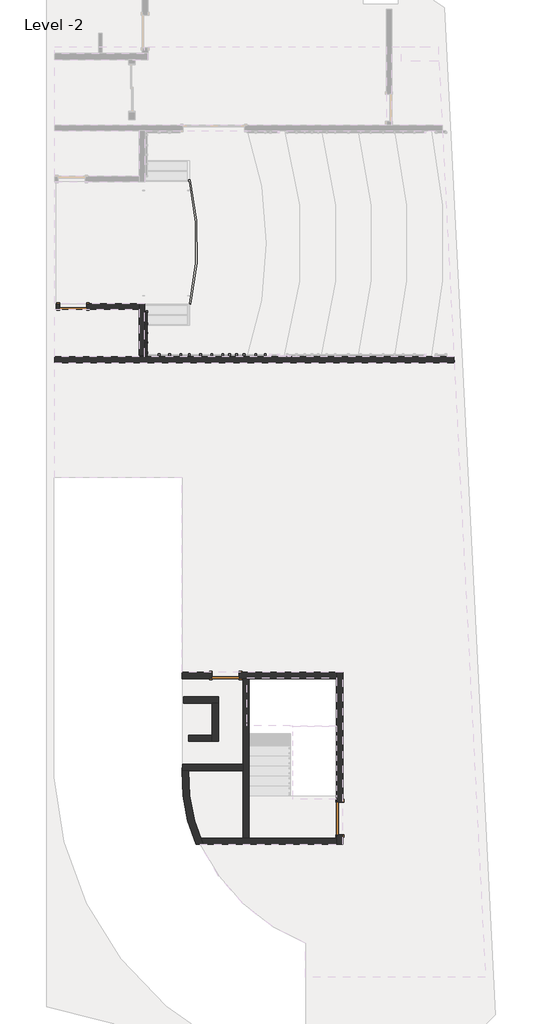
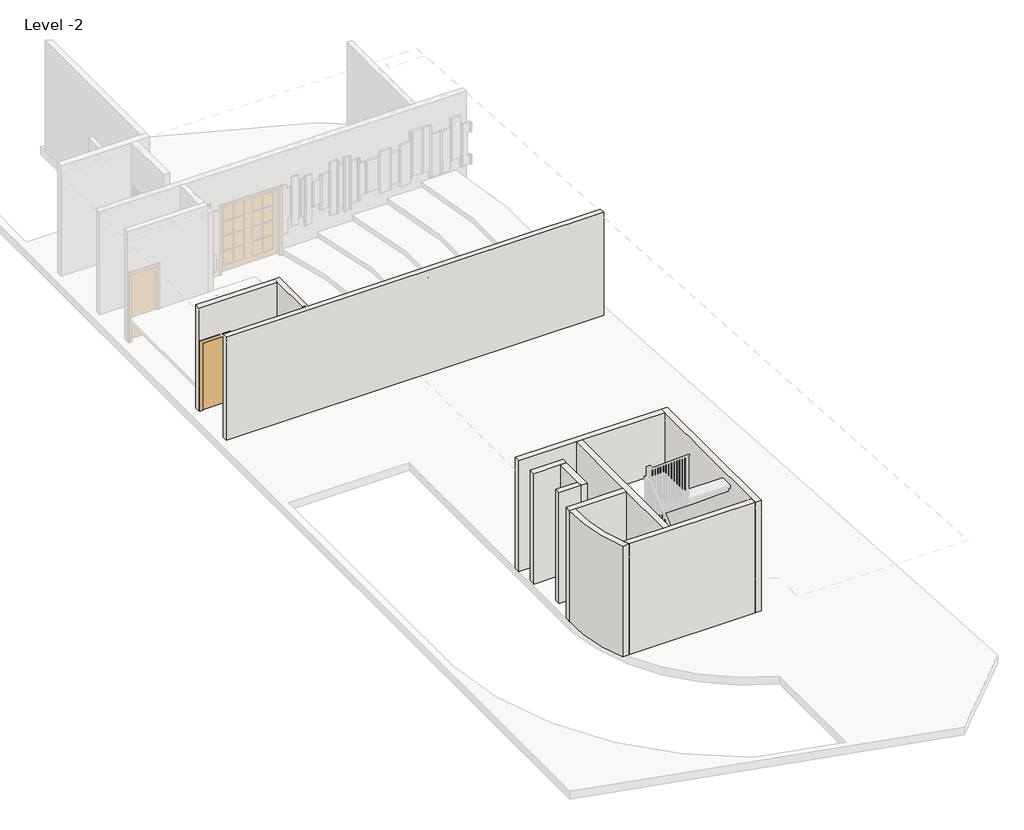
# One storey, part 1 of 6: 17 proxies, 14 walls, 3 doors.
"""IFC4 building model written with IfcOpenShell, lengths in millimetres."""

from ifc_helpers import new_model, si_unit, point, frame, frame_2d, origin, place, context, project, spatial, polyline, circle_curve, trimmed, segment, composite_curve, outline, extrude, faceted_brep, transform, mapped, element, save
from ifc_brep_helpers import plane_surface, cylinder_surface, revolved_surface, advanced_brep
from components import m_single_flush_0762_x_2134mm_e7173df3, m_single_flush_0762_x_2134mm_89ae47f1, m_single_flush_0915_x_2032mm_88b5ae01

model = new_model("IFC4")

# Units and contexts
model_context = context("Model", 3, world=origin())
ifc_project = project(units=[si_unit("LENGTHUNIT", "METRE", prefix="MILLI")], contexts=[model_context])

# Site, building, storey
site = spatial("IfcSite", under=ifc_project)
building = spatial("IfcBuilding", under=site)
storey = spatial("IfcBuildingStorey", under=building, Name="Level -2", Elevation=-7000.0)

# Proxies
placement = place(None, origin())
element("IfcBuildingElementProxy", 1, Name="Reveal", ObjectType="Reveal", at=placement, inside=storey, context=model_context, shape_type="SweptSolid", body=[
    extrude(outline(polyline([(3177.0430077, 180.1293333), (3177.0430077, 230.1293333), (3227.0430077, 230.1293333), (3227.0430077, 180.1293333), (3177.0430077, 180.1293333)])), frame((0.0, 0.0, -6462.0582782), z_axis=(0.0, 0.0, 1.0), x_axis=(1.0, 0.0, 0.0)), (0.0, 0.0, 1.0), 2142.6614901),
])
element("IfcBuildingElementProxy", 2, Name="Reveal", ObjectType="Reveal", at=placement, inside=storey, context=model_context, shape_type="SweptSolid", body=[
    extrude(outline(polyline([(3492.3539947, 180.1293333), (3492.3539947, 230.1293333), (3542.3539947, 230.1293333), (3542.3539947, 180.1293333), (3492.3539947, 180.1293333)])), frame((0.0, 0.0, -6462.0582782), z_axis=(0.0, 0.0, 1.0), x_axis=(1.0, 0.0, 0.0)), (0.0, 0.0, 1.0), 2142.6614901),
])
element("IfcBuildingElementProxy", 3, Name="Reveal", ObjectType="Reveal", at=placement, inside=storey, context=model_context, shape_type="SweptSolid", body=[
    extrude(outline(polyline([(3732.3539947, 180.1293333), (3732.3539947, 230.1293333), (3782.3539947, 230.1293333), (3782.3539947, 180.1293333), (3732.3539947, 180.1293333)])), frame((0.0, 0.0, -6462.0582782), z_axis=(0.0, 0.0, 1.0), x_axis=(1.0, 0.0, 0.0)), (0.0, 0.0, 1.0), 2142.6614901),
])
element("IfcBuildingElementProxy", 4, Name="Reveal", ObjectType="Reveal", at=placement, inside=storey, context=model_context, shape_type="SweptSolid", body=[
    extrude(outline(polyline([(2877.0430077, 180.1293333), (2877.0430077, 230.1293333), (2927.0430077, 230.1293333), (2927.0430077, 180.1293333), (2877.0430077, 180.1293333)])), frame((0.0, 0.0, -6162.0582782), z_axis=(0.0, 0.0, 1.0), x_axis=(1.0, 0.0, 0.0)), (0.0, 0.0, 1.0), 1542.6614901),
])
element("IfcBuildingElementProxy", 5, Name="Reveal", ObjectType="Reveal", at=placement, inside=storey, context=model_context, shape_type="SweptSolid", body=[
    extrude(outline(polyline([(4052.3539947, 180.1293333), (4052.3539947, 230.1293333), (4102.3539947, 230.1293333), (4102.3539947, 180.1293333), (4052.3539947, 180.1293333)])), frame((0.0, 0.0, -6162.0582782), z_axis=(0.0, 0.0, 1.0), x_axis=(1.0, 0.0, 0.0)), (0.0, 0.0, 1.0), 1542.6614901),
])
element("IfcBuildingElementProxy", 6, Name="Reveal", ObjectType="Reveal", at=placement, inside=storey, context=model_context, shape_type="SweptSolid", body=[
    extrude(outline(polyline([(4372.3539947, 180.1293333), (4372.3539947, 230.1293333), (4422.3539947, 230.1293333), (4422.3539947, 180.1293333), (4372.3539947, 180.1293333)])), frame((0.0, 0.0, -5862.0582782), z_axis=(0.0, 0.0, 1.0), x_axis=(1.0, 0.0, 0.0)), (0.0, 0.0, 1.0), 942.6614901),
])
element("IfcBuildingElementProxy", 7, Name="Reveal", ObjectType="Reveal", at=placement, inside=storey, context=model_context, shape_type="SweptSolid", body=[
    extrude(outline(polyline([(4677.0430077, 180.1293333), (4677.0430077, 230.1293333), (4727.0430077, 230.1293333), (4727.0430077, 180.1293333), (4677.0430077, 180.1293333)])), frame((0.0, 0.0, -6162.0582782), z_axis=(0.0, 0.0, 1.0), x_axis=(1.0, 0.0, 0.0)), (0.0, 0.0, 1.0), 1542.6614901),
])
element("IfcBuildingElementProxy", 8, Name="Reveal", ObjectType="Reveal", at=placement, inside=storey, context=model_context, shape_type="SweptSolid", body=[
    extrude(outline(polyline([(4866.8852546, 180.1293333), (4866.8852546, 230.1293333), (4916.8852546, 230.1293333), (4916.8852546, 180.1293333), (4866.8852546, 180.1293333)])), frame((0.0, 0.0, -6162.0582782), z_axis=(0.0, 0.0, 1.0), x_axis=(1.0, 0.0, 0.0)), (0.0, 0.0, 1.0), 1542.6614901),
])
element("IfcBuildingElementProxy", 9, Name="Reveal", ObjectType="Reveal", at=placement, inside=storey, context=model_context, shape_type="SweptSolid", body=[
    extrude(outline(polyline([(5277.0430077, 180.1293333), (5277.0430077, 230.1293333), (5327.0430077, 230.1293333), (5327.0430077, 180.1293333), (5277.0430077, 180.1293333)])), frame((0.0, 0.0, -6162.0582782), z_axis=(0.0, 0.0, 1.0), x_axis=(1.0, 0.0, 0.0)), (0.0, 0.0, 1.0), 1542.6614901),
])
element("IfcBuildingElementProxy", 10, Name="Reveal", ObjectType="Reveal", at=placement, inside=storey, context=model_context, shape_type="SweptSolid", body=[
    extrude(outline(polyline([(5612.3539947, 180.1293333), (5612.3539947, 230.1293333), (5662.3539947, 230.1293333), (5662.3539947, 180.1293333), (5612.3539947, 180.1293333)])), frame((0.0, 0.0, -5862.0582782), z_axis=(0.0, 0.0, 1.0), x_axis=(1.0, 0.0, 0.0)), (0.0, 0.0, 1.0), 942.6614901),
])
element("IfcBuildingElementProxy", 11, Name="Reveal", ObjectType="Reveal", at=placement, inside=storey, context=model_context, shape_type="SweptSolid", body=[
    extrude(outline(polyline([(5877.0430077, 180.1293333), (5877.0430077, 230.1293333), (5927.0430077, 230.1293333), (5927.0430077, 180.1293333), (5877.0430077, 180.1293333)])), frame((0.0, 0.0, -5862.0582782), z_axis=(0.0, 0.0, 1.0), x_axis=(1.0, 0.0, 0.0)), (0.0, 0.0, 1.0), 942.6614901),
])
element("IfcBuildingElementProxy", 12, Name="Reveal", ObjectType="Reveal", at=placement, inside=storey, context=model_context, shape_type="SweptSolid", body=[
    extrude(outline(polyline([(5066.8852546, 180.1293333), (5066.8852546, 230.1293333), (5116.8852546, 230.1293333), (5116.8852546, 180.1293333), (5066.8852546, 180.1293333)])), frame((0.0, 0.0, -6162.0582782), z_axis=(0.0, 0.0, 1.0), x_axis=(1.0, 0.0, 0.0)), (0.0, 0.0, 1.0), 1542.6614901),
])
element("IfcBuildingElementProxy", 13, Name="Reveal", ObjectType="Reveal", at=placement, inside=storey, context=model_context, shape_type="SweptSolid", body=[
    extrude(outline(polyline([(2537.3539947, 1445.1293333), (2587.3539947, 1445.1293333), (2587.3539947, 1395.1293333), (2537.3539947, 1395.1293333), (2537.3539947, 1445.1293333)])), frame((0.0, 0.0, -6241.0), z_axis=(0.0, 0.0, 1.0), x_axis=(1.0, 0.0, 0.0)), (0.0, 0.0, 1.0), 1741.0),
])
element("IfcBuildingElementProxy", 14, Name="Reveal", ObjectType="Reveal", at=placement, inside=storey, context=model_context, shape_type="SweptSolid", body=[
    extrude(outline(polyline([(2537.3539947, 1105.1293333), (2587.3539947, 1105.1293333), (2587.3539947, 1055.1293333), (2537.3539947, 1055.1293333), (2537.3539947, 1105.1293333)])), frame((0.0, 0.0, -5941.0), z_axis=(0.0, 0.0, 1.0), x_axis=(1.0, 0.0, 0.0)), (0.0, 0.0, 1.0), 1141.0),
])
element("IfcBuildingElementProxy", 15, Name="Reveal", ObjectType="Reveal", at=placement, inside=storey, context=model_context, shape_type="SweptSolid", body=[
    extrude(outline(polyline([(2537.3539947, 845.1293333), (2587.3539947, 845.1293333), (2587.3539947, 795.1293333), (2537.3539947, 795.1293333), (2537.3539947, 845.1293333)])), frame((0.0, 0.0, -6341.0), z_axis=(0.0, 0.0, 1.0), x_axis=(1.0, 0.0, 0.0)), (0.0, 0.0, 1.0), 1941.0),
])
element("IfcBuildingElementProxy", 16, Name="Reveal", ObjectType="Reveal", at=placement, inside=storey, context=model_context, shape_type="SweptSolid", body=[
    extrude(outline(polyline([(2537.3539947, 575.1293333), (2587.3539947, 575.1293333), (2587.3539947, 525.1293333), (2537.3539947, 525.1293333), (2537.3539947, 575.1293333)])), frame((0.0, 0.0, -6341.0), z_axis=(0.0, 0.0, 1.0), x_axis=(1.0, 0.0, 0.0)), (0.0, 0.0, 1.0), 1941.0),
])
element("IfcBuildingElementProxy", 17, Name="Reveal", ObjectType="Reveal", at=placement, inside=storey, context=model_context, shape_type="SweptSolid", body=[
    extrude(outline(polyline([(2537.3539947, 285.1293333), (2587.3539947, 285.1293333), (2587.3539947, 235.1293333), (2537.3539947, 235.1293333), (2537.3539947, 285.1293333)])), frame((0.0, 0.0, -6041.0), z_axis=(0.0, 0.0, 1.0), x_axis=(1.0, 0.0, 0.0)), (0.0, 0.0, 1.0), 1341.0),
])

# Doors
m_single_flush_0762_x_2134mm_shape = m_single_flush_0762_x_2134mm_e7173df3(model_context)
element("IfcDoor", 18, ObjectType="M_Single-Flush : 0762 x 2134mm", at=placement, inside=storey, context=model_context, shape_type="MappedRepresentation", body=[
    mapped(m_single_flush_0762_x_2134mm_shape, transform((4788.992527, -8850.5298497, -7000.0), x_axis=(1.0, 0.0, 0.0), y_axis=(0.0, 1.0, 0.0), z_axis=(0.0, 0.0, 1.0))),
])
m_single_flush_0762_x_2134mm_2_shape = m_single_flush_0762_x_2134mm_89ae47f1(model_context)
element("IfcDoor", 19, ObjectType="M_Single-Flush : 0762 x 2134mm", at=placement, inside=storey, context=model_context, shape_type="MappedRepresentation", body=[
    mapped(m_single_flush_0762_x_2134mm_2_shape, transform((474.9398516, 1562.9427762, -7000.0), x_axis=(-1.0, 0.0, 0.0), y_axis=(0.0, -1.0, 0.0), z_axis=(0.0, 0.0, 1.0))),
])
m_single_flush_0915_x_2032mm_shape = m_single_flush_0915_x_2032mm_88b5ae01(model_context)
element("IfcDoor", 20, ObjectType="M_Single-Flush : 0915 x 2032mm", at=placement, inside=storey, context=model_context, shape_type="MappedRepresentation", body=[
    mapped(m_single_flush_0915_x_2032mm_shape, transform((8009.9667664, -12880.0279318, -7000.0), x_axis=(0.0, -1.0, 0.0), y_axis=(1.0, 0.0, 0.0), z_axis=(0.0, 0.0, 1.0))),
])

# Walls
element("IfcWall", 21, ObjectType="Generic - 18cm-gypsu-2boith 2", at=placement, inside=storey, context=model_context, shape_type="Brep", body=[
    faceted_brep([(7919.9667664, -8760.5298497, -7000.0), (5169.992527, -8760.5298497, -7000.0), (5169.992527, -8760.5298497, -4866.0), (4407.992527, -8760.5298497, -4866.0), (4407.992527, -8760.5298497, -7000.0), (3549.4089841, -8760.5298497, -7000.0), (3549.4089841, -8760.5298497, -3500.0), (7919.9667664, -8760.5298497, -3500.0), (5169.992527, -8940.5298497, -4866.0), (5169.992527, -8940.5298497, -7000.0), (5269.992527, -8940.5298497, -7000.0), (5449.992527, -8940.5298497, -7000.0), (7919.9667664, -8940.5298497, -7000.0), (7919.9667664, -8940.5298497, -3500.0), (5449.992527, -8940.5298497, -3500.0), (5269.992527, -8940.5298497, -3500.0), (3549.4089841, -8940.5298497, -3500.0), (3549.4089841, -8940.5298497, -7000.0), (4407.992527, -8940.5298497, -7000.0), (4407.992527, -8940.5298497, -4866.0)], [[[0, 1, 2, 3, 4, 5, 6, 7]], [[8, 9, 10, 11, 12, 13, 14, 15, 16, 17, 18, 19]], [[18, 17, 5, 4]], [[12, 11, 10, 9, 1, 0]], [[6, 5, 17, 16]], [[7, 6, 16, 15, 14, 13]], [[2, 1, 9, 8]], [[3, 2, 8, 19]], [[4, 3, 19, 18]], [[0, 7, 13, 12]]]),
])
element("IfcWall", 22, ObjectType="Generic - 18cm-gypsu-2boith 2", at=placement, inside=storey, context=model_context, shape_type="Brep", body=[
    faceted_brep([(7919.9667664, -13337.5279318, -4968.0), (7919.9667664, -13337.5279318, -7000.0), (7919.9667664, -13437.5279318, -7000.0), (7919.9667664, -13617.5279318, -7000.0), (7919.9667664, -13617.5279318, -3500.0), (7919.9667664, -13437.5279318, -3500.0), (7919.9667664, -8940.5298497, -3500.0), (7919.9667664, -8760.5298497, -3500.0), (7919.9667664, -8760.5298497, -7000.0), (7919.9667664, -8940.5298497, -7000.0), (7919.9667664, -12422.5279318, -7000.0), (7919.9667664, -12422.5279318, -4968.0), (8099.9667664, -13617.5279318, -7000.0), (8099.9667664, -13337.5279318, -7000.0), (8099.9667664, -13337.5279318, -4968.0), (8099.9667664, -12422.5279318, -4968.0), (8099.9667664, -12422.5279318, -7000.0), (8099.9667664, -8760.5298497, -7000.0), (8099.9667664, -8760.5298497, -3500.0), (8099.9667664, -13617.5279318, -3500.0)], [[[0, 1, 2, 3, 4, 5, 6, 7, 8, 9, 10, 11]], [[12, 13, 14, 15, 16, 17, 18, 19]], [[3, 2, 1, 13, 12]], [[10, 9, 8, 17, 16]], [[7, 6, 5, 4, 19, 18]], [[4, 3, 12, 19]], [[14, 13, 1, 0]], [[15, 14, 0, 11]], [[16, 15, 11, 10]], [[8, 7, 18, 17]]]),
])
element("IfcWall", 23, ObjectType="Generic - 18cm-gypsu-2boith 2", at=placement, inside=storey, context=model_context, shape_type="Brep", body=[
    faceted_brep([(5449.992527, -13437.5279318, -7000.0), (5449.992527, -8940.5298497, -7000.0), (5449.992527, -8940.5298497, -3500.0), (5449.992527, -13437.5279318, -3500.0), (5269.992527, -13437.5279318, -7000.0), (5269.992527, -13437.5279318, -3500.0), (5269.992527, -11535.2406086, -3500.0), (5269.992527, -11355.2406086, -3500.0), (5269.992527, -8940.5298497, -3500.0), (5269.992527, -8940.5298497, -7000.0), (5269.992527, -11355.2406086, -7000.0), (5269.992527, -11535.2406086, -7000.0)], [[[0, 1, 2, 3]], [[4, 5, 6, 7, 8, 9, 10, 11]], [[1, 0, 4, 11, 10, 9]], [[3, 2, 8, 7, 6, 5]], [[2, 1, 9, 8]], [[0, 3, 5, 4]]]),
])
element("IfcWall", 24, ObjectType="Generic - 18cm-gypsu-2boith 2", at=placement, inside=storey, context=model_context, shape_type="AdvancedBrep", body=[
    advanced_brep(
    [(7919.9667664, -13437.5279318, -7000.0), (5449.992527, -13437.5279318, -7000.0), (5269.992527, -13437.5279318, -7000.0), (4073.9239779, -13437.5279318, -7000.0), (4073.9239779, -13437.5279318, -3500.0), (5269.992527, -13437.5279318, -3500.0), (5449.992527, -13437.5279318, -3500.0), (7919.9667664, -13437.5279318, -3500.0), (7919.9667664, -13617.5279318, -7000.0), (7919.9667664, -13617.5279318, -3500.0), (4153.3159797, -13617.5279318, -3500.0), (4153.3159797, -13617.5279318, -7000.0)],
    [
        (0, 1),
        (1, 2),
        (2, 3),
        (3, 4),
        (4, 5),
        (5, 6),
        (6, 7),
        (7, 0),
        (8, 9),
        (9, 10),
        (10, 11),
        (11, 8),
        (0, 8),
        (11, 3, circle_curve(frame((8170.7225142, -11738.0751988, -7000.0), z_axis=(0.0, 0.0, -1.0), x_axis=(-0.996421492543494, -0.08452342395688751, 0.0)), 4435.3013245)),
        (4, 10, circle_curve(frame((8170.7225142, -11738.0751988, -3500.0), z_axis=(0.0, 0.0, 1.0), x_axis=(-0.996421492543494, -0.08452342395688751, 0.0)), 4435.3013245)),
        (9, 7),
    ],
    [
        plane_surface(frame((6817.1731359, -13437.5279318, -7000.0), z_axis=(0.0, 1.0, 0.0), x_axis=(-1.0, 0.0, 0.0))),
        plane_surface(frame((6817.1731359, -13617.5279318, -7000.0), z_axis=(0.0, -1.0, 0.0), x_axis=(1.0, 0.0, 0.0))),
        plane_surface(frame((8009.9667664, -13437.5279318, -7000.0), z_axis=(0.0, 0.0, -1.0), x_axis=(0.0, -1.0, 0.0))),
        plane_surface(frame((4014.2563476, -13437.5279318, -3500.0), z_axis=(0.0, 0.0, 1.0), x_axis=(0.0, -1.0, 0.0))),
        plane_surface(frame((7919.9667664, -9630.5561637, -7000.0), z_axis=(1.0, 0.0, 0.0), x_axis=(0.0, -1.0, 0.0))),
        cylinder_surface(frame((8170.7225142, -11738.0751988, -7000.0), z_axis=(0.0, 0.0, -1.0), x_axis=(-0.996421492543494, -0.08452342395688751, 0.0)), 4435.3013245),
    ],
    [
        (0, [[1, 2, 3, 4, 5, 6, 7, 8]]),
        (1, [[9, 10, 11, 12]]),
        (2, [[-3, -2, -1, 13, -12, 14]]),
        (3, [[-7, -6, -5, 15, -10, 16]]),
        (4, [[-8, -16, -9, -13]]),
        (5, [[-4, -14, -11, -15]]),
    ],
),
])
element("IfcWall", 25, ObjectType="Generic - 18cm-gypsu-2boith 2", at=placement, inside=storey, context=model_context, shape_type="AdvancedBrep", body=[
    advanced_brep(
    [(5269.992527, -11355.2406086, -7000.0), (3571.3264677, -11355.2406086, -7000.0), (3571.3264677, -11355.2406086, -3500.0), (5269.992527, -11355.2406086, -3500.0), (5269.992527, -11535.2406086, -7000.0), (5269.992527, -11535.2406086, -3500.0), (3740.061619, -11535.2406086, -3500.0), (3559.8804604, -11535.2406086, -3500.0), (3559.8804604, -11535.2406086, -7000.0), (3740.061619, -11535.2406086, -7000.0)],
    [
        (0, 1),
        (1, 2),
        (2, 3),
        (3, 0),
        (4, 5),
        (5, 6),
        (6, 7),
        (7, 8),
        (8, 9),
        (9, 4),
        (0, 4),
        (8, 1, circle_curve(frame((8170.7225142, -11738.0751988, -7000.0), z_axis=(0.0, 0.0, -1.0), x_axis=(-0.996421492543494, -0.08452342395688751, 0.0)), 4615.3013245)),
        (2, 7, circle_curve(frame((8170.7225142, -11738.0751988, -3500.0), z_axis=(0.0, 0.0, 1.0), x_axis=(-0.996421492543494, -0.08452342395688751, 0.0)), 4615.3013245)),
        (5, 3),
    ],
    [
        plane_surface(frame((4899.9914965, -11355.2406086, -7000.0), z_axis=(0.0, 1.0, 0.0), x_axis=(-1.0, 0.0, 0.0))),
        plane_surface(frame((4899.9914965, -11535.2406086, -7000.0), z_axis=(0.0, -1.0, 0.0), x_axis=(1.0, 0.0, 0.0))),
        plane_surface(frame((5359.992527, -11355.2406086, -7000.0), z_axis=(0.0, 0.0, -1.0), x_axis=(0.0, -1.0, 0.0))),
        plane_surface(frame((3654.9058682, -11355.2406086, -3500.0), z_axis=(0.0, 0.0, 1.0), x_axis=(0.0, -1.0, 0.0))),
        plane_surface(frame((5269.992527, -8797.3826572, -7000.0), z_axis=(1.0, 0.0, 0.0), x_axis=(0.0, -1.0, 0.0))),
        cylinder_surface(frame((8170.7225142, -11738.0751988, -7000.0), z_axis=(0.0, 0.0, 1.0), x_axis=(-0.996421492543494, -0.08452342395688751, 0.0)), 4615.3013245),
    ],
    [
        (0, [[1, 2, 3, 4]]),
        (1, [[5, 6, 7, 8, 9, 10]]),
        (2, [[-1, 11, -10, -9, 12]]),
        (3, [[-3, 13, -7, -6, 14]]),
        (4, [[-4, -14, -5, -11]]),
        (5, [[-2, -12, -8, -13]]),
    ],
),
])
element("IfcWall", 26, ObjectType="Generic - 18cm-gypsu-2boith 2", at=placement, inside=storey, context=model_context, shape_type="AdvancedBrep", body=[
    advanced_brep(
    [(4153.3159797, -13617.5279318, -3500.0), (4073.9213856, -13437.5216298, -3500.0), (3740.061619, -11535.2406086, -3500.0), (3559.8804604, -11535.2406086, -3500.0), (3955.4332311, -13617.5279318, -3500.0), (4153.3159797, -13617.5279318, -7000.0), (3955.4332311, -13617.5279318, -7000.0), (3559.8804604, -11535.2406086, -7000.0), (3740.061619, -11535.2406086, -7000.0), (4073.9213856, -13437.5216298, -7000.0)],
    [
        (0, 1, circle_curve(frame((8170.7225142, -11738.0751988, -3500.0), z_axis=(0.0, 0.0, -1.0), x_axis=(-0.996421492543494, -0.08452342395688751, 0.0)), 4435.3013245)),
        (1, 2, circle_curve(frame((8170.7225142, -11738.0751988, -3500.0), z_axis=(0.0, 0.0, -1.0), x_axis=(-0.996421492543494, -0.08452342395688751, 0.0)), 4435.3013042)),
        (2, 3),
        (3, 4, circle_curve(frame((8170.7225142, -11738.0751988, -3500.0), z_axis=(0.0, 0.0, 1.0), x_axis=(-0.996421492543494, -0.08452342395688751, 0.0)), 4615.3013245)),
        (4, 0),
        (5, 6),
        (6, 7, circle_curve(frame((8170.7225142, -11738.0751988, -7000.0), z_axis=(0.0, 0.0, -1.0), x_axis=(-0.996421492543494, -0.08452342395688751, 0.0)), 4615.3013245)),
        (7, 8),
        (8, 9, circle_curve(frame((8170.7225142, -11738.0751988, -7000.0), z_axis=(0.0, 0.0, 1.0), x_axis=(-0.996421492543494, -0.08452342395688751, 0.0)), 4435.3013245)),
        (9, 5, circle_curve(frame((8170.7225142, -11738.0751988, -7000.0), z_axis=(0.0, 0.0, 1.0), x_axis=(-0.996421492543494, -0.08452342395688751, 0.0)), 4435.3013042)),
        (0, 5),
        (8, 2),
        (3, 7),
        (6, 4),
    ],
    [
        plane_surface(frame((3751.2929486, -12112.962053, -3500.0), z_axis=(0.0, 0.0, 1.0), x_axis=(-0.08452342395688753, 0.996421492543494, 0.0))),
        plane_surface(frame((3751.2929486, -12112.962053, -7000.0), z_axis=(0.0, 0.0, -1.0), x_axis=(0.08452342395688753, -0.996421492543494, 0.0))),
        revolved_surface(polyline([(3751.292948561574, -12112.962053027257, -7000.0), (3751.292948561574, -12112.962053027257, -3500.0)]), (8170.7225142, -11738.0751988, -7000.0), (0.0, 0.0, -1.0)),
        cylinder_surface(frame((8170.7225142, -11738.0751988, -7000.0), z_axis=(0.0, 0.0, 1.0), x_axis=(-0.996421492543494, -0.08452342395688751, 0.0)), 4615.3013245),
        plane_surface(frame((4899.9914965, -11535.2406086, -7000.0), z_axis=(0.0, 1.0, 0.0), x_axis=(1.0, 0.0, 0.0))),
        plane_surface(frame((6817.1731359, -13617.5279318, -7000.0), z_axis=(0.0, -1.0, 0.0), x_axis=(1.0, 0.0, 0.0))),
    ],
    [
        (0, [[1, 2, 3, 4, 5]]),
        (1, [[6, 7, 8, 9, 10]]),
        (2, [[-2, -1, 11, -10, -9, 12]]),
        (3, [[-4, 13, -7, 14]]),
        (4, [[-3, -12, -8, -13]]),
        (5, [[-5, -14, -6, -11]]),
    ],
),
])
element("IfcWall", 27, ObjectType="Generic - 18cm-gypsu-2boith 2", at=placement, inside=storey, context=model_context, shape_type="Brep", body=[
    faceted_brep([(4578.6875281, -9450.0867626, -7000.0), (3601.2929486, -9450.0867626, -7000.0), (3601.2929486, -9450.0867626, -3500.0), (4578.6875281, -9450.0867626, -3500.0), (4578.6875281, -9630.0867626, -7000.0), (4578.6875281, -9630.0867626, -3500.0), (4398.6875281, -9630.0867626, -3500.0), (3601.2929486, -9630.0867626, -3500.0), (3601.2929486, -9630.0867626, -7000.0), (4398.6875281, -9630.0867626, -7000.0)], [[[0, 1, 2, 3]], [[4, 5, 6, 7, 8, 9]], [[1, 0, 4, 9, 8]], [[2, 1, 8, 7]], [[3, 2, 7, 6, 5]], [[0, 3, 5, 4]]]),
])
element("IfcWall", 28, ObjectType="Generic - 18cm-gypsu-2boith 2", at=placement, inside=storey, context=model_context, shape_type="Brep", body=[
    faceted_brep([(4398.6875281, -9630.0867626, -7000.0), (4398.6875281, -10530.0867626, -7000.0), (4398.6875281, -10710.0867626, -7000.0), (4398.6875281, -10710.0867626, -3500.0), (4398.6875281, -10530.0867626, -3500.0), (4398.6875281, -9630.0867626, -3500.0), (4578.6875281, -9630.0867626, -7000.0), (4578.6875281, -9630.0867626, -3500.0), (4578.6875281, -10710.0867626, -3500.0), (4578.6875281, -10710.0867626, -7000.0)], [[[0, 1, 2, 3, 4, 5]], [[6, 7, 8, 9]], [[2, 1, 0, 6, 9]], [[5, 4, 3, 8, 7]], [[0, 5, 7, 6]], [[3, 2, 9, 8]]]),
])
element("IfcWall", 29, ObjectType="Generic - 18cm-gypsu-2boith 2", at=placement, inside=storey, context=model_context, shape_type="SweptSolid", body=[
    extrude(outline(polyline([(3731.2929486, -10530.0867626), (4398.6875281, -10530.0867626), (4398.6875281, -10710.0867626), (3731.2929486, -10710.0867626), (3731.2929486, -10530.0867626)])), frame((0.0, 0.0, -7000.0), z_axis=(0.0, 0.0, 1.0), x_axis=(1.0, 0.0, 0.0)), (0.0, 0.0, 1.0), 3500.0),
])
element("IfcWall", 30, ObjectType="Antick", at=placement, inside=storey, context=model_context, shape_type="SweptSolid", body=[
    extrude(outline(composite_curve([segment(polyline([(3733.0022555, 5136.0546679), (3781.5880035, 5147.8625082)]), True, "CONTINUOUS"), segment(trimmed(circle_curve(frame_2d((-3560.294592, 3363.5578296)), 7555.5928445), [point((3781.5880035, 5147.8625082))], [point((3794.0844812, 1631.4805567))], False, "CARTESIAN"), True, "CONTINUOUS"), segment(polyline([(3794.0844812, 1631.4805567), (3745.4160364, 1642.9427762)]), True, "CONTINUOUS"), segment(trimmed(circle_curve(frame_2d((-3560.294592, 3363.5578296)), 7505.5928445), [point((3745.4160364, 1642.9427762))], [point((3733.0022555, 5136.0546679))], True, "CARTESIAN"), True, "CONTINUOUS")], self_intersect=False)), frame((0.0, 0.0, -7000.0), z_axis=(0.0, 0.0, 1.0), x_axis=(1.0, 0.0, 0.0)), (0.0, 0.0, 1.0), 700.0),
])
element("IfcWall", 31, ObjectType="kamposite5cm", at=placement, inside=storey, context=model_context, shape_type="Brep", body=[
    faceted_brep([(2512.3539947, 1640.1293333, -5100.0), (2512.3539947, 1640.1293333, -5641.0), (2512.3539947, 1420.1293333, -5641.0), (2512.3539947, 1420.1293333, -6241.0), (2512.3539947, 1120.1293333, -6241.0), (2512.3539947, 1120.1293333, -5941.0), (2512.3539947, 820.1293333, -5941.0), (2512.3539947, 820.1293333, -6341.0), (2512.3539947, 520.1293333, -6341.0), (2512.3539947, 520.1293333, -6041.0), (2512.3539947, 155.1293333, -6041.0), (2512.3539947, 155.1293333, -4700.0), (2512.3539947, 520.1293333, -4700.0), (2512.3539947, 520.1293333, -4400.0), (2512.3539947, 820.1293333, -4400.0), (2512.3539947, 820.1293333, -4800.0), (2512.3539947, 1120.1293333, -4800.0), (2512.3539947, 1120.1293333, -4500.0), (2512.3539947, 1420.1293333, -4500.0), (2512.3539947, 1420.1293333, -5100.0), (2562.3539947, 1640.1293333, -5641.0), (2562.3539947, 1640.1293333, -5100.0), (2562.3539947, 1445.1293333, -5100.0), (2562.3539947, 1445.1293333, -5641.0), (2562.3539947, 155.1293333, -4700.0), (2562.3539947, 155.1293333, -4919.396788), (2562.3539947, 155.1293333, -5862.0582782), (2562.3539947, 155.1293333, -6041.0), (2562.3539947, 235.1293333, -6041.0), (2562.3539947, 235.1293333, -4700.0), (2562.3539947, 1120.1293333, -5941.0), (2562.3539947, 1120.1293333, -6241.0), (2562.3539947, 1395.1293333, -6241.0), (2562.3539947, 1395.1293333, -4500.0), (2562.3539947, 1120.1293333, -4500.0), (2562.3539947, 1120.1293333, -4800.0), (2562.3539947, 1105.1293333, -4800.0), (2562.3539947, 1105.1293333, -5941.0), (2562.3539947, 520.1293333, -6041.0), (2562.3539947, 520.1293333, -6341.0), (2562.3539947, 525.1293333, -6341.0), (2562.3539947, 525.1293333, -4400.0), (2562.3539947, 520.1293333, -4400.0), (2562.3539947, 520.1293333, -4700.0), (2562.3539947, 285.1293333, -4700.0), (2562.3539947, 285.1293333, -6041.0), (2562.3539947, 1055.1293333, -5941.0), (2562.3539947, 1055.1293333, -4800.0), (2562.3539947, 845.1293333, -4800.0), (2562.3539947, 845.1293333, -5941.0), (2562.3539947, 795.1293333, -6341.0), (2562.3539947, 795.1293333, -4400.0), (2562.3539947, 575.1293333, -4400.0), (2562.3539947, 575.1293333, -6341.0), (2537.3539947, 1445.1293333, -5641.0), (2537.3539947, 1420.1293333, -5641.0), (2537.3539947, 1420.1293333, -6241.0), (2537.3539947, 1395.1293333, -6241.0), (2537.3539947, 1105.1293333, -5941.0), (2537.3539947, 1055.1293333, -5941.0), (2537.3539947, 845.1293333, -5941.0), (2537.3539947, 820.1293333, -5941.0), (2537.3539947, 820.1293333, -6341.0), (2537.3539947, 795.1293333, -6341.0), (2537.3539947, 575.1293333, -6341.0), (2537.3539947, 525.1293333, -6341.0), (2537.3539947, 285.1293333, -6041.0), (2537.3539947, 235.1293333, -6041.0), (2537.3539947, 235.1293333, -4700.0), (2537.3539947, 285.1293333, -4700.0), (2537.3539947, 525.1293333, -4400.0), (2537.3539947, 575.1293333, -4400.0), (2537.3539947, 795.1293333, -4400.0), (2537.3539947, 820.1293333, -4400.0), (2537.3539947, 820.1293333, -4800.0), (2537.3539947, 845.1293333, -4800.0), (2537.3539947, 1055.1293333, -4800.0), (2537.3539947, 1105.1293333, -4800.0), (2537.3539947, 1395.1293333, -4500.0), (2537.3539947, 1420.1293333, -4500.0), (2537.3539947, 1420.1293333, -5100.0), (2537.3539947, 1445.1293333, -5100.0)], [[[0, 1, 2, 3, 4, 5, 6, 7, 8, 9, 10, 11, 12, 13, 14, 15, 16, 17, 18, 19]], [[20, 21, 22, 23]], [[24, 25, 26, 27, 28, 29]], [[30, 31, 32, 33, 34, 35, 36, 37]], [[38, 39, 40, 41, 42, 43, 44, 45]], [[46, 47, 48, 49]], [[50, 51, 52, 53]], [[11, 10, 27, 26, 25, 24]], [[1, 0, 21, 20]], [[2, 1, 20, 23, 54, 55]], [[3, 2, 55, 56]], [[4, 3, 56, 57, 32, 31]], [[5, 4, 31, 30]], [[6, 5, 30, 37, 58, 59, 46, 49, 60, 61]], [[7, 6, 61, 62]], [[8, 7, 62, 63, 50, 53, 64, 65, 40, 39]], [[9, 8, 39, 38]], [[10, 9, 38, 45, 66, 67, 28, 27]], [[12, 11, 24, 29, 68, 69, 44, 43]], [[13, 12, 43, 42]], [[14, 13, 42, 41, 70, 71, 52, 51, 72, 73]], [[15, 14, 73, 74]], [[16, 15, 74, 75, 48, 47, 76, 77, 36, 35]], [[17, 16, 35, 34]], [[18, 17, 34, 33, 78, 79]], [[19, 18, 79, 80]], [[0, 19, 80, 81, 22, 21]], [[81, 54, 23, 22]], [[57, 78, 33, 32]], [[78, 57, 56, 55, 54, 81, 80, 79]], [[77, 58, 37, 36]], [[59, 76, 47, 46]], [[58, 77, 76, 59]], [[75, 60, 49, 48]], [[63, 72, 51, 50]], [[72, 63, 62, 61, 60, 75, 74, 73]], [[71, 64, 53, 52]], [[65, 70, 41, 40]], [[64, 71, 70, 65]], [[69, 66, 45, 44]], [[67, 68, 29, 28]], [[66, 69, 68, 67]]]),
])
element("IfcWall", 32, ObjectType="Generic - 20cm-granit2side", at=placement, inside=storey, context=model_context, shape_type="Brep", body=[
    faceted_brep([(11233.1660454, 141.5114142, -7000.0), (-50.0290025, 141.5114142, -7000.0), (-50.0290025, 141.5114142, -3741.0), (11233.1660454, 141.5114142, -3741.0), (-50.0290025, -18.4885858, -7000.0), (11241.3101786, -18.4885858, -7000.0), (11241.3101786, -18.4885858, -3900.0), (11241.3101786, -18.4885858, -3848.0), (11241.3101786, -18.4885858, -3741.0), (-50.0290025, -18.4885858, -3741.0), (-50.0290025, -18.4885858, -3848.0), (-50.0290025, -18.4885858, -3900.0)], [[[0, 1, 2, 3]], [[4, 5, 6, 7, 8, 9, 10, 11]], [[1, 0, 5, 4]], [[1, 4, 11, 10, 9, 2]], [[5, 0, 3, 8, 7, 6]], [[3, 2, 9, 8]]]),
])
element("IfcWall", 33, ObjectType="Generic - 20cm-granit2side", at=placement, inside=storey, context=model_context, shape_type="Brep", body=[
    faceted_brep([(2340.2894211, 1642.9427762, -7000.0), (2340.2894211, 1482.9427762, -7000.0), (2340.2894211, 190.1648112, -7000.0), (2340.2894211, 190.1648112, -3741.0), (2340.2894211, 1482.9427762, -3741.0), (2340.2894211, 1642.9427762, -3741.0), (2500.2894211, 190.1648112, -7000.0), (2500.2894211, 1642.9427762, -7000.0), (2500.2894211, 1642.9427762, -3741.0), (2500.2894211, 190.1648112, -3741.0)], [[[0, 1, 2, 3, 4, 5]], [[6, 7, 8, 9]], [[2, 1, 0, 7, 6]], [[2, 6, 9, 3]], [[7, 0, 5, 8]], [[5, 4, 3, 9, 8]]]),
])
element("IfcWall", 34, ObjectType="Generic - 20cm-granit2side", at=placement, inside=storey, context=model_context, shape_type="SweptSolid", body=[
    extrude(outline(polyline([(-7000.0, 93.9398516), (-4866.0, 93.9398516), (-4866.0, 855.9398516), (-7000.0, 855.9398516), (-7000.0, 2340.2894211), (-3741.0, 2340.2894211), (-3741.0, -6.0601484), (-7000.0, -6.0601484), (-7000.0, 93.9398516)])), frame((0.0, 1482.9427762, 0.0), z_axis=(0.0, 1.0, 0.0), x_axis=(0.0, 0.0, 1.0)), (0.0, 0.0, 1.0), 160.0),
])

save(model, "model.ifc")
